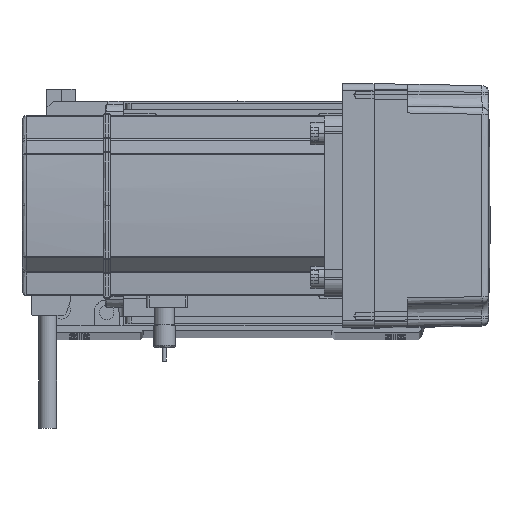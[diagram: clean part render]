
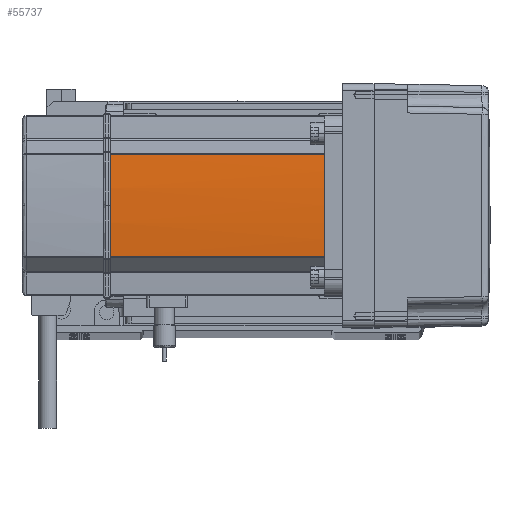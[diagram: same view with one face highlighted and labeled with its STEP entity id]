
A CAD part, top view. The second image highlights one B-rep face of the part: STEP entity #55737.
In plain terms, the highlighted cylindrical face has radius 270 mm (diameter 540 mm), a partial arc.
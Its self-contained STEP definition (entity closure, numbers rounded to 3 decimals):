
#162 = CARTESIAN_POINT ( 'NONE',  ( -39.042, -22.724, 39. ) ) ;
#913 = EDGE_CURVE ( 'NONE', #11778, #18827, #57149, .T. ) ;
#2802 = CARTESIAN_POINT ( 'NONE',  ( 230., 0., 0. ) ) ;
#3400 = DIRECTION ( 'NONE',  ( 0., 0., 1. ) ) ;
#6320 = CARTESIAN_POINT ( 'NONE',  ( -40., 0., 134. ) ) ;
#7551 = AXIS2_PLACEMENT_3D ( 'NONE', #47853, #56996, #43335 ) ;
#7972 = FACE_OUTER_BOUND ( 'NONE', #38102, .T. ) ;
#8809 = CARTESIAN_POINT ( 'NONE',  ( -39.042, -22.724, 134. ) ) ;
#10011 = ORIENTED_EDGE ( 'NONE', *, *, #10292, .T. ) ;
#10292 = EDGE_CURVE ( 'NONE', #15013, #11778, #11366, .T. ) ;
#11366 = CIRCLE ( 'NONE', #13517, 270. ) ;
#11778 = VERTEX_POINT ( 'NONE', #6320 ) ;
#11826 = DIRECTION ( 'NONE',  ( 0., 0., -1. ) ) ;
#12688 = DIRECTION ( 'NONE',  ( 1., 0., 0. ) ) ;
#13517 = AXIS2_PLACEMENT_3D ( 'NONE', #48961, #58290, #53744 ) ;
#14885 = VECTOR ( 'NONE', #29951, 1000. ) ;
#15013 = VERTEX_POINT ( 'NONE', #8809 ) ;
#18451 = ORIENTED_EDGE ( 'NONE', *, *, #45467, .T. ) ;
#18827 = VERTEX_POINT ( 'NONE', #46968 ) ;
#25240 = CARTESIAN_POINT ( 'NONE',  ( -39.042, 22.724, 0. ) ) ;
#27388 = CARTESIAN_POINT ( 'NONE',  ( -39.042, -22.724, 0. ) ) ;
#29951 = DIRECTION ( 'NONE',  ( 0., 0., -1. ) ) ;
#30136 = EDGE_CURVE ( 'NONE', #18827, #60400, #54065, .T. ) ;
#30342 = DIRECTION ( 'NONE',  ( 1., 0., 0. ) ) ;
#31307 = AXIS2_PLACEMENT_3D ( 'NONE', #2802, #3400, #12688 ) ;
#34707 = ORIENTED_EDGE ( 'NONE', *, *, #913, .T. ) ;
#35348 = CARTESIAN_POINT ( 'NONE',  ( 230., 0., 39. ) ) ;
#38102 = EDGE_LOOP ( 'NONE', ( #10011, #34707, #50498, #40358, #18451 ) ) ;
#38670 = EDGE_CURVE ( 'NONE', #45567, #60400, #58835, .T. ) ;
#40358 = ORIENTED_EDGE ( 'NONE', *, *, #38670, .F. ) ;
#43335 = DIRECTION ( 'NONE',  ( 1., 0., 0. ) ) ;
#45397 = LINE ( 'NONE', #27388, #54292 ) ;
#45467 = EDGE_CURVE ( 'NONE', #45567, #15013, #45397, .T. ) ;
#45567 = VERTEX_POINT ( 'NONE', #162 ) ;
#46968 = CARTESIAN_POINT ( 'NONE',  ( -39.042, 22.724, 134. ) ) ;
#47853 = CARTESIAN_POINT ( 'NONE',  ( 230., 0., 134. ) ) ;
#48961 = CARTESIAN_POINT ( 'NONE',  ( 230., 0., 134. ) ) ;
#50498 = ORIENTED_EDGE ( 'NONE', *, *, #30136, .T. ) ;
#50750 = CARTESIAN_POINT ( 'NONE',  ( -39.042, 22.724, 39. ) ) ;
#52269 = CYLINDRICAL_SURFACE ( 'NONE', #31307, 270. ) ;
#53744 = DIRECTION ( 'NONE',  ( 1., 0., 0. ) ) ;
#54065 = LINE ( 'NONE', #25240, #14885 ) ;
#54292 = VECTOR ( 'NONE', #60840, 1000. ) ;
#55737 = ADVANCED_FACE ( 'NONE', ( #7972 ), #52269, .T. ) ;
#56996 = DIRECTION ( 'NONE',  ( 0., 0., -1. ) ) ;
#57149 = CIRCLE ( 'NONE', #7551, 270. ) ;
#58290 = DIRECTION ( 'NONE',  ( 0., 0., -1. ) ) ;
#58387 = AXIS2_PLACEMENT_3D ( 'NONE', #35348, #11826, #30342 ) ;
#58835 = CIRCLE ( 'NONE', #58387, 270. ) ;
#60400 = VERTEX_POINT ( 'NONE', #50750 ) ;
#60840 = DIRECTION ( 'NONE',  ( 0., 0., 1. ) ) ;
